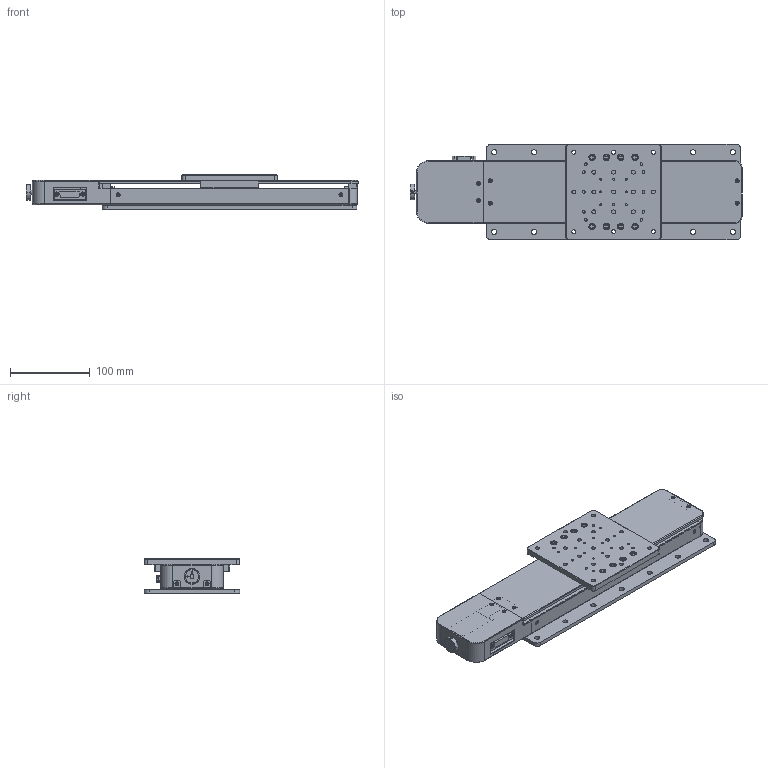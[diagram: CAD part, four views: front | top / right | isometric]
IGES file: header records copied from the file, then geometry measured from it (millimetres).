
Global section: file name: No Iges File Name specified; native system: AutoDesk Inventor R12.0; preprocessor: AutoDesk Inventor Iges Exporter R12.0; author: No Author specified; organization: No Organization specified; date: 20140422.201615; units: millimetre
Bounding box: 417.5 x 120 x 43 mm (x, y, z)
Volume: 692127.7 mm3; surface area: 383633.8 mm2
Topology: 79 solids, 95 shells, 2927 faces, 7375 edges, 4709 vertices
Faces by surface type: plane 1527, bspline 593, cylinder 458, cone 223, revolution 105, torus 20, sphere 1
